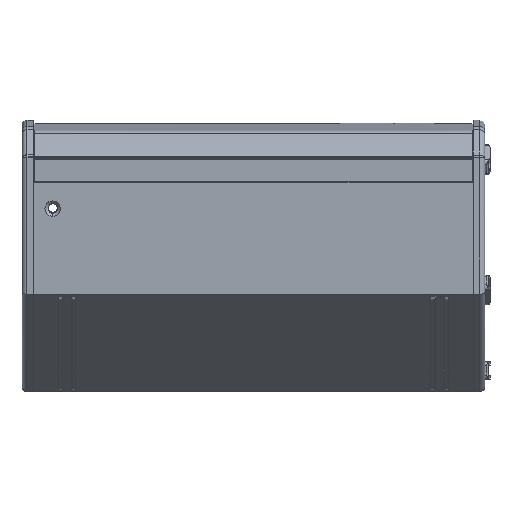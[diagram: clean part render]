
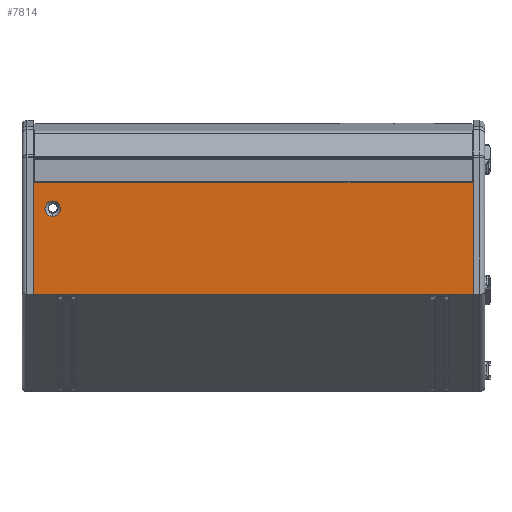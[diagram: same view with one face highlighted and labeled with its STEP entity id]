
A CAD part, left-side view. The second image highlights one B-rep face of the part: STEP entity #7814.
In plain terms, the highlighted planar face has unit normal (-0.999, 0, -0.044).
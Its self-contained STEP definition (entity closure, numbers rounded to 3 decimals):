
#1895 = ORIENTED_EDGE ( 'NONE', *, *, #11955, .T. ) ;
#3390 = EDGE_LOOP ( 'NONE', ( #40010, #33385 ) ) ;
#3613 = CARTESIAN_POINT ( 'NONE',  ( -189.452, 585., 5.049 ) ) ;
#4017 = LINE ( 'NONE', #3613, #18860 ) ;
#4221 = DIRECTION ( 'NONE',  ( 0.044, 0., -0.999 ) ) ;
#4255 = CARTESIAN_POINT ( 'NONE',  ( -179.227, 15., -229.124 ) ) ;
#5272 = CARTESIAN_POINT ( 'NONE',  ( -183.626, 560.2, -128.38 ) ) ;
#5564 = CARTESIAN_POINT ( 'NONE',  ( -179.227, 590.37, -229.124 ) ) ;
#5847 = CARTESIAN_POINT ( 'NONE',  ( -179.227, 585., -229.124 ) ) ;
#7253 = CIRCLE ( 'NONE', #20743, 10. ) ;
#7814 = ADVANCED_FACE ( 'NONE', ( #21714, #34523 ), #12221, .T. ) ;
#8860 = ORIENTED_EDGE ( 'NONE', *, *, #18171, .T. ) ;
#9648 = VERTEX_POINT ( 'NONE', #4255 ) ;
#9785 = EDGE_CURVE ( 'NONE', #34140, #41674, #17673, .T. ) ;
#10248 = AXIS2_PLACEMENT_3D ( 'NONE', #15487, #22023, #31667 ) ;
#11145 = VERTEX_POINT ( 'NONE', #5847 ) ;
#11955 = EDGE_CURVE ( 'NONE', #30702, #11145, #4017, .T. ) ;
#12221 = PLANE ( 'NONE',  #18732 ) ;
#12586 = DIRECTION ( 'NONE',  ( 0., -1., 0. ) ) ;
#12659 = CARTESIAN_POINT ( 'NONE',  ( -179.227, 9.63, -229.124 ) ) ;
#12689 = LINE ( 'NONE', #37489, #20531 ) ;
#13906 = LINE ( 'NONE', #27192, #29860 ) ;
#14110 = CARTESIAN_POINT ( 'NONE',  ( -185.534, 15., -84.671 ) ) ;
#14576 = EDGE_CURVE ( 'NONE', #11145, #9648, #24805, .T. ) ;
#15487 = CARTESIAN_POINT ( 'NONE',  ( -184.062, 560.2, -118.389 ) ) ;
#17673 = CIRCLE ( 'NONE', #10248, 10. ) ;
#18171 = EDGE_CURVE ( 'NONE', #37626, #30702, #12689, .T. ) ;
#18732 = AXIS2_PLACEMENT_3D ( 'NONE', #12659, #25496, #41450 ) ;
#18860 = VECTOR ( 'NONE', #4221, 1000. ) ;
#20289 = EDGE_CURVE ( 'NONE', #41674, #34140, #7253, .T. ) ;
#20531 = VECTOR ( 'NONE', #38320, 1000. ) ;
#20743 = AXIS2_PLACEMENT_3D ( 'NONE', #29105, #25943, #35394 ) ;
#21558 = CARTESIAN_POINT ( 'NONE',  ( -185.534, 585., -84.671 ) ) ;
#21714 = FACE_BOUND ( 'NONE', #3390, .T. ) ;
#22023 = DIRECTION ( 'NONE',  ( -0.999, 0., -0.044 ) ) ;
#24805 = LINE ( 'NONE', #5564, #37429 ) ;
#25496 = DIRECTION ( 'NONE',  ( -0.999, 0., -0.044 ) ) ;
#25943 = DIRECTION ( 'NONE',  ( -0.999, 0., -0.044 ) ) ;
#25948 = ORIENTED_EDGE ( 'NONE', *, *, #14576, .T. ) ;
#27192 = CARTESIAN_POINT ( 'NONE',  ( -189.452, 15., 5.049 ) ) ;
#29105 = CARTESIAN_POINT ( 'NONE',  ( -184.062, 560.2, -118.389 ) ) ;
#29860 = VECTOR ( 'NONE', #39545, 1000. ) ;
#30702 = VERTEX_POINT ( 'NONE', #21558 ) ;
#31667 = DIRECTION ( 'NONE',  ( -0.044, 0., 0.999 ) ) ;
#32454 = EDGE_LOOP ( 'NONE', ( #8860, #1895, #25948, #39718 ) ) ;
#33385 = ORIENTED_EDGE ( 'NONE', *, *, #20289, .F. ) ;
#33607 = CARTESIAN_POINT ( 'NONE',  ( -184.498, 560.2, -108.399 ) ) ;
#34140 = VERTEX_POINT ( 'NONE', #33607 ) ;
#34523 = FACE_OUTER_BOUND ( 'NONE', #32454, .T. ) ;
#35394 = DIRECTION ( 'NONE',  ( -0.044, 0., 0.999 ) ) ;
#37429 = VECTOR ( 'NONE', #12586, 1000. ) ;
#37489 = CARTESIAN_POINT ( 'NONE',  ( -185.534, 9.63, -84.671 ) ) ;
#37626 = VERTEX_POINT ( 'NONE', #14110 ) ;
#38320 = DIRECTION ( 'NONE',  ( 0., 1., 0. ) ) ;
#39513 = EDGE_CURVE ( 'NONE', #37626, #9648, #13906, .T. ) ;
#39545 = DIRECTION ( 'NONE',  ( 0.044, 0., -0.999 ) ) ;
#39718 = ORIENTED_EDGE ( 'NONE', *, *, #39513, .F. ) ;
#40010 = ORIENTED_EDGE ( 'NONE', *, *, #9785, .F. ) ;
#41450 = DIRECTION ( 'NONE',  ( -0.044, 0., 0.999 ) ) ;
#41674 = VERTEX_POINT ( 'NONE', #5272 ) ;
